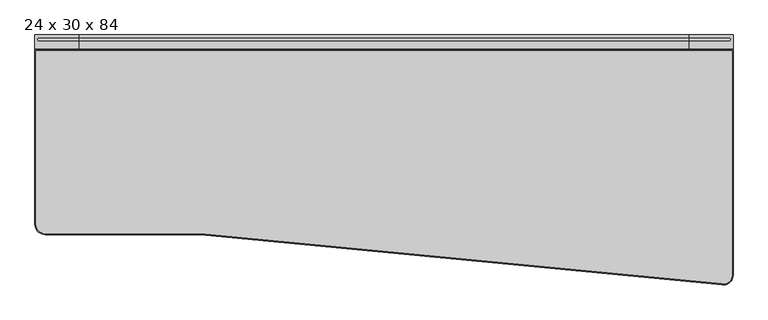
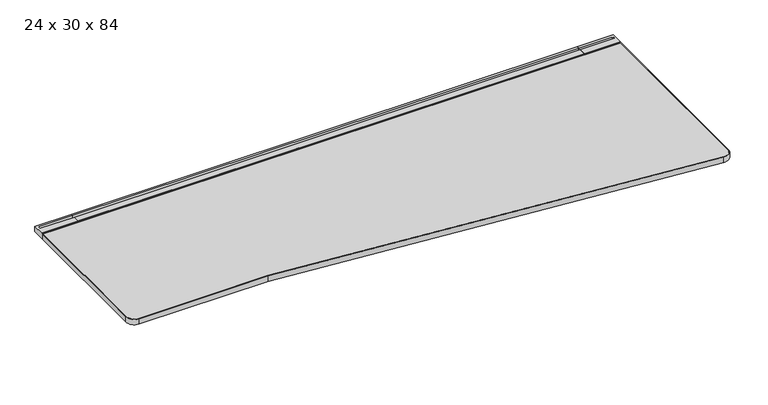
"""IFC4 building model written with IfcOpenShell, lengths in millimetres: furniture geometry, Steelcase - C Scape - Desking - Right Hand Transition : 24 x 30 x 84."""

import ifcopenshell
import ifcopenshell.guid

model = None  # the IFC model being written
_history = None  # IfcOwnerHistory: only IFC2X3 demands one
_inside = {}  # id of a spatial element -> (the spatial element, [elements in it])
_under = {}  # id of a project, library or spatial element -> (it, [spatial elements below it])
_declared = {}  # id of a project -> (the project, [libraries it declares])
_typed = {}  # id of a type object -> (the type object, [elements of that type])
_made_of = {}  # id of a material, layer set ... -> (it, [elements and type objects made of it])


def new_model(schema):
    """Start an empty IFC model of exactly this schema.

    Asked for "IFC4X3", IfcOpenShell would pick the latest addendum, in which some entities
    have other attributes; the version numbers below select the first issue.
    IFC2X3 requires an IfcOwnerHistory on every rooted entity: one is made here for all.
    """
    global model, _history
    if schema == "IFC4X3":
        model = ifcopenshell.file(schema_version=(4, 3, 0, 0))
    else:
        model = ifcopenshell.file(schema=schema)
    _inside.clear()
    _under.clear()
    _declared.clear()
    _typed.clear()
    _made_of.clear()
    _history = None
    if model.schema == "IFC2X3":
        org = make("IfcOrganization", Name="unknown")
        user = make(
            "IfcPersonAndOrganization",
            ThePerson=make("IfcPerson", FamilyName="unknown"),
            TheOrganization=org,
        )
        app = make(
            "IfcApplication",
            ApplicationDeveloper=org,
            Version="unknown",
            ApplicationFullName="unknown",
            ApplicationIdentifier="unknown",
        )
        _history = make(
            "IfcOwnerHistory",
            OwningUser=user,
            OwningApplication=app,
            ChangeAction="ADDED",
            CreationDate=0,
        )
    return model


def make(cls, **values):
    """One entity of the class cls with the attributes given. An attribute that is None is left unset."""
    return model.create_entity(
        cls, **{name: value for name, value in values.items() if value is not None}
    )


def rooted(cls, **values):
    """An entity with a GlobalId (a new one), such as an element, a storey or a relation."""
    return make(cls, GlobalId=ifcopenshell.guid.new(), OwnerHistory=_history, **values)


def si_unit(unit_type, name, prefix=None):
    """IfcSIUnit, for example si_unit("LENGTHUNIT", "METRE", prefix="MILLI")."""
    return make("IfcSIUnit", UnitType=unit_type, Prefix=prefix, Name=name)


def assignment(units):
    """IfcUnitAssignment: the units of a project."""
    return None if units is None else make("IfcUnitAssignment", Units=units)


def point(xyz):
    """IfcCartesianPoint."""
    return None if xyz is None else make("IfcCartesianPoint", Coordinates=xyz)


def direction(xyz):
    """IfcDirection."""
    return None if xyz is None else make("IfcDirection", DirectionRatios=xyz)


def frame(location, z_axis=None, x_axis=None):
    """IfcAxis2Placement3D, a coordinate frame: its origin and axes. An axis left out is left unset."""
    return make(
        "IfcAxis2Placement3D",
        Location=point(location),
        Axis=direction(z_axis),
        RefDirection=direction(x_axis),
    )


def frame_2d(location, x_axis=None):
    """IfcAxis2Placement2D, a coordinate frame in the plane: its origin and x axis."""
    return make(
        "IfcAxis2Placement2D", Location=point(location), RefDirection=direction(x_axis)
    )


def origin():
    """The frame at (0, 0, 0) with its axes left unset."""
    return frame((0.0, 0.0, 0.0))


def place(relative_to, where):
    """IfcLocalPlacement: puts the frame where relative to a parent placement (None: the world)."""
    return make(
        "IfcLocalPlacement", PlacementRelTo=relative_to, RelativePlacement=where
    )


def context(
    kind, dimensions, precision=None, world=None, true_north=None, identifier=None
):
    """IfcGeometricRepresentationContext, for example the 3D "Model" context."""
    return make(
        "IfcGeometricRepresentationContext",
        ContextIdentifier=identifier,
        ContextType=kind,
        CoordinateSpaceDimension=dimensions,
        Precision=precision,
        WorldCoordinateSystem=world,
        TrueNorth=true_north,
    )


def project(units=None, contexts=None):
    """IfcProject with its units and contexts."""
    return rooted(
        "IfcProject",
        Name="project",
        RepresentationContexts=contexts,
        UnitsInContext=assignment(units),
    )


def spatial(cls, under=None, at=None, **own):
    """A site, building, storey or space (cls), placed at a placement, below another one or the project."""
    s = rooted(cls, ObjectPlacement=at, **own)
    if under is not None:
        _under.setdefault(under.id(), (under, []))[1].append(s)
    return s


def polyline(points):
    """IfcPolyline through the points."""
    return make("IfcPolyline", Points=[point(p) for p in points])


def circle_curve(where, radius):
    """IfcCircle in the frame where."""
    return make("IfcCircle", Position=where, Radius=radius)


def trimmed(basis, trim1, trim2, sense, master):
    """IfcTrimmedCurve: the piece of a basis curve between two trims."""
    return make(
        "IfcTrimmedCurve",
        BasisCurve=basis,
        Trim1=trim1,
        Trim2=trim2,
        SenseAgreement=sense,
        MasterRepresentation=master,
    )


def segment(curve, same_sense, transition):
    """IfcCompositeCurveSegment."""
    return make(
        "IfcCompositeCurveSegment",
        Transition=transition,
        SameSense=same_sense,
        ParentCurve=curve,
    )


def composite_curve(segments, self_intersect=None):
    """IfcCompositeCurve: segments joined end to end."""
    return make("IfcCompositeCurve", Segments=segments, SelfIntersect=self_intersect)


def outline(outer, holes=None, kind="AREA"):
    """IfcArbitraryClosedProfileDef: a profile drawn as a closed curve; with holes, ...WithVoids."""
    if holes is None:
        return make("IfcArbitraryClosedProfileDef", ProfileType=kind, OuterCurve=outer)
    return make(
        "IfcArbitraryProfileDefWithVoids",
        ProfileType=kind,
        OuterCurve=outer,
        InnerCurves=holes,
    )


def extrude(swept, where, along, depth):
    """IfcExtrudedAreaSolid: the profile swept, set in the frame where, extruded along a direction by depth."""
    return make(
        "IfcExtrudedAreaSolid",
        SweptArea=swept,
        Position=where,
        ExtrudedDirection=direction(along),
        Depth=depth,
    )


def faces_of(points, faces, orient=None, outer=None):
    """IfcFace entities. A face is a list of loops; a loop is a list of indices into points, from 0.

    orient and outer hold one flag for each loop. By default every Orientation is true, the
    first loop of a face is its IfcFaceOuterBound and the others are IfcFaceBound.
    """
    made = []
    for i, loops in enumerate(faces):
        bounds = []
        for j, loop in enumerate(loops):
            is_outer = j == 0 if outer is None else outer[i][j]
            bounds.append(
                make(
                    "IfcFaceOuterBound" if is_outer else "IfcFaceBound",
                    Bound=make("IfcPolyLoop", Polygon=[points[k] for k in loop]),
                    Orientation=True if orient is None else orient[i][j],
                )
            )
        made.append(make("IfcFace", Bounds=bounds))
    return made


def faceted_brep(points, faces, orient=None, outer=None, voids=None):
    """IfcFacetedBrep: a solid bounded by flat faces; with voids (closed shells), ...WithVoids."""
    shared = [point(p) for p in points]
    hull = make("IfcClosedShell", CfsFaces=faces_of(shared, faces, orient, outer))
    if voids is None:
        return make("IfcFacetedBrep", Outer=hull)
    return make(
        "IfcFacetedBrepWithVoids",
        Outer=hull,
        Voids=[
            make(cls, CfsFaces=faces_of(shared, fs, o, b)) for cls, fs, o, b in voids
        ],
    )


def shape(context_of_items, identifier, shape_type, items):
    """IfcShapeRepresentation: the items that make up one representation, for example the "Body"."""
    return make(
        "IfcShapeRepresentation",
        ContextOfItems=context_of_items,
        RepresentationIdentifier=identifier,
        RepresentationType=shape_type,
        Items=items,
    )


def source(mapping_origin, context_of_items, identifier, shape_type, items):
    """IfcRepresentationMap: a shape defined once, which mapped items show again and again."""
    return make(
        "IfcRepresentationMap",
        MappingOrigin=mapping_origin,
        MappedRepresentation=shape(context_of_items, identifier, shape_type, items),
    )


def transform(
    local_origin,
    x_axis=None,
    y_axis=None,
    z_axis=None,
    scale=None,
    scale2=None,
    scale3=None,
    uniform=True,
):
    """IfcCartesianTransformationOperator3D, or its non-uniform kind. x_axis, y_axis, z_axis: its Axis1, 2, 3."""
    if uniform:
        return make(
            "IfcCartesianTransformationOperator3D",
            Axis1=direction(x_axis),
            Axis2=direction(y_axis),
            LocalOrigin=point(local_origin),
            Scale=scale,
            Axis3=direction(z_axis),
        )
    return make(
        "IfcCartesianTransformationOperator3DnonUniform",
        Axis1=direction(x_axis),
        Axis2=direction(y_axis),
        LocalOrigin=point(local_origin),
        Scale=scale,
        Axis3=direction(z_axis),
        Scale2=scale2,
        Scale3=scale3,
    )


def mapped(mapping_source, mapping_target):
    """IfcMappedItem: shows the shape of a source again, moved by a transform."""
    return make(
        "IfcMappedItem", MappingSource=mapping_source, MappingTarget=mapping_target
    )


def made_of(thing, what):
    """Note that an element or type object is made of a material, layer set ...; save() writes the relation."""
    if what is not None:
        _made_of.setdefault(what.id(), (what, []))[1].append(thing)
    return thing


def element(
    cls,
    number,
    at=None,
    inside=None,
    cuts=None,
    type_object=None,
    material=None,
    context=None,
    identifier="Body",
    shape_type=None,
    held_by="IfcProductDefinitionShape",
    body=None,
    shapes=None,
    **own,
):
    """One element of the class cls, such as IfcWall. Its Tag is "e" and its number.

    at: its placement. inside: the storey or other place that contains it. cuts: it is an
    opening in that element (IfcRelVoidsElement). A single representation is given by context,
    identifier, shape_type and body (its items); several are given by shapes. held_by: the class
    of the entity that holds the representations. save() writes the other relations.
    """
    e = rooted(cls, Tag="e%d" % number, ObjectPlacement=at, **own)
    if body is not None:
        shapes = [shape(context, identifier, shape_type, body)]
    if shapes is not None:
        e.Representation = make(held_by, Representations=shapes)
    if inside is not None:
        _inside.setdefault(inside.id(), (inside, []))[1].append(e)
    if cuts is not None:
        rooted(
            "IfcRelVoidsElement", RelatingBuildingElement=cuts, RelatedOpeningElement=e
        )
    if type_object is not None:
        _typed.setdefault(type_object.id(), (type_object, []))[1].append(e)
    return made_of(e, material)


def aggregate(whole, parts):
    """IfcRelAggregates: a whole, such as a stair, and the parts it consists of."""
    return rooted("IfcRelAggregates", RelatingObject=whole, RelatedObjects=parts)


def save(model, path):
    """Write the relations noted so far, then the file.

    IfcRelAggregates (storeys below a building ...), IfcRelContainedInSpatialStructure (elements
    in a storey), IfcRelDefinesByType, IfcRelAssociatesMaterial and IfcRelDeclares: one each for
    every whole, place, type object, material and project.
    """
    for whole, parts in _under.values():
        aggregate(whole, parts)
    for where, things in _inside.values():
        rooted(
            "IfcRelContainedInSpatialStructure",
            RelatedElements=things,
            RelatingStructure=where,
        )
    for kind, things in _typed.values():
        rooted("IfcRelDefinesByType", RelatedObjects=things, RelatingType=kind)
    for what, things in _made_of.values():
        rooted("IfcRelAssociatesMaterial", RelatedObjects=things, RelatingMaterial=what)
    for by, libraries in _declared.values():
        rooted("IfcRelDeclares", RelatingContext=by, RelatedDefinitions=libraries)
    model.write(path)


def plane_surface(at):
    """IfcPlane: the flat surface through the origin of the frame at, square to its z axis."""
    return make("IfcPlane", Position=at)


def cylinder_surface(at, radius):
    """IfcCylindricalSurface: all points at the distance radius from the z axis of the frame at."""
    return make("IfcCylindricalSurface", Position=at, Radius=radius)


def revolved_surface(curve, axis_point, axis_direction):
    """IfcSurfaceOfRevolution: the curve turned about the line through axis_point along axis_direction."""
    return make(
        "IfcSurfaceOfRevolution",
        SweptCurve=make("IfcArbitraryOpenProfileDef", ProfileType="CURVE", Curve=curve),
        AxisPosition=make("IfcAxis1Placement", Location=point(axis_point), Axis=direction(axis_direction)),
    )


def advanced_brep(points, edges, surfaces, faces):
    """IfcAdvancedBrep: a solid bounded by faces that lie on surfaces and meet in shared edges.

    An edge is (start, end): straight between two places in points (the first is 0);
    or (start, end, curve); or (start, end, curve, False) where it runs against its curve.
    A face is (place in surfaces, loops), or (place, loops, False) where it looks against
    its surface's normal. A loop lists edges by number (the first is 1), with a minus sign
    where the edge is run from its end to its start. The first loop is the outer one.
    """
    corners = [point(p) for p in points]
    vertices = [make("IfcVertexPoint", VertexGeometry=c) for c in corners]
    made = []
    for start, end, *more in edges:
        made.append(
            make(
                "IfcEdgeCurve",
                EdgeStart=vertices[start],
                EdgeEnd=vertices[end],
                EdgeGeometry=more[0] if more else make("IfcPolyline", Points=[corners[start], corners[end]]),
                SameSense=more[1] if len(more) > 1 else True,
            )
        )
    hull = []
    for where, loops, *sense in faces:
        bounds = []
        for j, loop in enumerate(loops):
            ring = [make("IfcOrientedEdge", EdgeElement=made[abs(k) - 1], Orientation=k > 0) for k in loop]
            bounds.append(
                make(
                    "IfcFaceOuterBound" if j == 0 else "IfcFaceBound",
                    Bound=make("IfcEdgeLoop", EdgeList=ring),
                    Orientation=True,
                )
            )
        hull.append(make("IfcAdvancedFace", Bounds=bounds, FaceSurface=surfaces[where], SameSense=sense[0] if sense else True))
    return make("IfcAdvancedBrep", Outer=make("IfcClosedShell", CfsFaces=hull))


def furniture_24_x_30_x_84_331a1a21(model_context):
    return source(origin(), model_context, "Body", "SolidModel", [
        advanced_brep(
        [(1998.9927124, -45.3135132, 703.3768), (1998.9927124, -45.3135132, 722.4268341), (1998.9927124, -42.7750923, 722.4268341), (1998.9927124, -42.7750923, 725.932), (1998.9927124, -19.3290527, 725.932), (1998.9927124, -19.3290527, 713.486), (1998.9927124, -8.5111084, 713.486), (1998.9927124, -8.5111084, 725.932), (1998.9927124, 0.0, 725.932), (1998.9927124, 0.0, 705.1038636), (1998.9927124, -3.2278472, 705.1038636), (1998.9927124, -4.0331902, 703.3768), (2132.0125, -45.3135132, 703.3768), (2132.0125, -4.0331902, 703.3768), (2132.0125, -3.2278472, 705.1038636), (2132.0125, 0.0, 705.1038636), (2132.0125, 0.0, 725.932), (2132.0125, -42.7750923, 725.932), (2132.0125, -42.7750923, 722.4268341), (2132.0125, -45.3135132, 722.4268341), (2120.2504272, -8.5111084, 725.932), (2120.2504272, -19.3290527, 725.932), (2120.2504272, -19.3290527, 713.486), (2120.2504272, -8.5111084, 713.486)],
        [
            (0, 1),
            (1, 2),
            (2, 3),
            (3, 4),
            (4, 5),
            (5, 6),
            (6, 7),
            (7, 8),
            (8, 9),
            (9, 10),
            (10, 11),
            (11, 0),
            (12, 13),
            (13, 14),
            (14, 15),
            (15, 16),
            (16, 17),
            (17, 18),
            (18, 19),
            (19, 12),
            (11, 13),
            (12, 0),
            (10, 14),
            (9, 15),
            (8, 16),
            (7, 20),
            (20, 21, circle_curve(frame((2120.2504272, -13.9200806, 725.932), z_axis=(0.0, 0.0, -1.0), x_axis=(-1.0, 0.0, 0.0)), 5.4089722)),
            (21, 4),
            (3, 17),
            (2, 18),
            (1, 19),
            (5, 22),
            (22, 23, circle_curve(frame((2120.2504272, -13.9200806, 713.486), z_axis=(0.0, 0.0, 1.0), x_axis=(-1.0, 0.0, 0.0)), 5.4089722)),
            (23, 6),
            (23, 20),
            (22, 21),
        ],
        [
            plane_surface(frame((1998.9927124, -45.3135132, 703.3768), z_axis=(-1.0, 0.0, 0.0), x_axis=(0.0, 1.0, 0.0))),
            plane_surface(frame((2132.0125, -45.3135132, 703.3768), z_axis=(1.0, 0.0, 0.0), x_axis=(0.0, -1.0, 0.0))),
            plane_surface(frame((1998.9927124, -45.3135132, 703.3768), z_axis=(0.0, 0.0, -1.0), x_axis=(1.0, 0.0, 0.0))),
            plane_surface(frame((1998.9927124, -4.0331902, 703.3768), z_axis=(0.0, 0.9063077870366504, -0.4226182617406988), x_axis=(1.0, 0.0, 0.0))),
            plane_surface(frame((1998.9927124, -3.2278472, 705.1038636), z_axis=(0.0, 0.0, -1.0), x_axis=(1.0, 0.0, 0.0))),
            plane_surface(frame((1998.9927124, 0.0, 705.1038636), z_axis=(0.0, 1.0, 0.0), x_axis=(1.0, 0.0, 0.0))),
            plane_surface(frame((1998.9927124, 0.0, 725.932), z_axis=(0.0, 0.0, 1.0), x_axis=(1.0, 0.0, 0.0))),
            plane_surface(frame((1998.9927124, -42.7750923, 725.932), z_axis=(0.0, -1.0, 0.0), x_axis=(1.0, 0.0, 0.0))),
            plane_surface(frame((1998.9927124, -42.7750923, 722.4268341), z_axis=(0.0, 0.0, 1.0), x_axis=(1.0, 0.0, 0.0))),
            plane_surface(frame((1998.9927124, -45.3135132, 722.4268341), z_axis=(0.0, -1.0, 0.0), x_axis=(1.0, 0.0, 0.0))),
            plane_surface(frame((2120.2504272, -8.5111084, 713.486), z_axis=(0.0, 0.0, 1.0), x_axis=(-1.0, 0.0, 0.0))),
            plane_surface(frame((1998.9927124, -8.5111084, 731.2180541), z_axis=(0.0, -1.0, 0.0), x_axis=(0.0, 0.0, -1.0))),
            revolved_surface(polyline([(2114.841455, -13.9200806, 725.932), (2114.841455, -13.9200806, 713.486)]), (2120.2504272, -13.9200806, 713.486), (0.0, 0.0, 1.0)),
            plane_surface(frame((2120.2504272, -19.3290527, 731.2180541), z_axis=(0.0, 1.0, 0.0), x_axis=(0.0, 0.0, -1.0))),
        ],
        [
            (0, [[1, 2, 3, 4, 5, 6, 7, 8, 9, 10, 11, 12]]),
            (1, [[13, 14, 15, 16, 17, 18, 19, 20]]),
            (2, [[21, -13, 22, -12]]),
            (3, [[23, -14, -21, -11]]),
            (4, [[24, -15, -23, -10]]),
            (5, [[25, -16, -24, -9]]),
            (6, [[-25, -8, 26, 27, 28, -4, 29, -17]]),
            (7, [[30, -18, -29, -3]]),
            (8, [[31, -19, -30, -2]]),
            (9, [[-22, -20, -31, -1]]),
            (10, [[-6, 32, 33, 34]]),
            (11, [[35, -26, -7, -34]]),
            (12, [[36, -27, -35, -33]]),
            (13, [[-5, -28, -36, -32]]),
        ],
    ),
        faceted_brep([(2112.9617368, -565.0752923, 700.7093833), (2112.9617368, -565.0752923, 703.3768), (1998.9927124, -565.0752923, 703.3768), (1998.9927124, -565.0752923, 679.3263935), (2014.6268699, -565.0752923, 679.3263935), (2017.2474121, -565.0752923, 693.4200291), (2098.6866272, -565.0752923, 693.4200291), (2112.9617368, -4.0331902, 700.7093833), (2098.6866272, -4.0331902, 693.4200291), (2017.2474121, -4.0331902, 693.4200291), (2005.3411653, -4.0331902, 629.3866), (1998.9927124, -4.0331902, 629.3866), (1998.9927124, -4.0331902, 703.3768), (2112.9617368, -4.0331902, 703.3768), (2012.4615949, -376.5599397, 667.6812472), (2005.3411653, -364.1172546, 629.3866), (1998.9927124, -364.1172546, 629.3866), (1998.9927124, -376.5599397, 667.6812472)], [[[0, 1, 2, 3, 4, 5, 6]], [[7, 8, 9, 10, 11, 12, 13]], [[6, 8, 7, 0]], [[5, 9, 8, 6]], [[9, 5, 4, 14, 15, 10]], [[10, 15, 16, 11]], [[11, 16, 17, 3, 2, 12]], [[1, 13, 12, 2]], [[0, 7, 13, 1]], [[14, 4, 3, 17]], [[17, 16, 15, 14]]]),
        extrude(outline(composite_curve([segment(polyline([(-293.5216187, 657.3775839), (-559.0022133, 680.1371551)]), True, "CONTINUOUS"), segment(trimmed(circle_curve(frame_2d((-558.7581271, 682.9843154)), 2.8576039), [point((-559.0022133, 680.1371551))], [point((-561.5383043, 682.3236226))], False, "CARTESIAN"), True, "CONTINUOUS"), segment(polyline([(-561.5383043, 682.3236226), (-566.0887542, 701.4717905), (-557.8334441, 701.4717905), (-557.8334441, 703.3768), (-442.6683806, 703.3768), (-442.6683806, 696.3917953), (-318.2108611, 696.3917953), (-318.2108611, 703.3768), (-293.5216187, 703.3768), (-293.5216187, 657.3775839)]), True, "CONTINUOUS")], self_intersect=False)), frame((1030.224, 0.0, 0.0), z_axis=(1.0, 0.0, 0.0), x_axis=(0.0, 1.0, 0.0)), (0.0, 0.0, 1.0), 73.152),
        advanced_brep(
        [(134.6072876, -45.3135132, 703.3768), (134.6072876, -4.0331902, 703.3768), (134.6072876, -3.2278472, 705.1038636), (134.6072876, 0.0, 705.1038636), (134.6072876, 0.0, 725.932), (134.6072876, -8.5111084, 725.932), (134.6072876, -8.5111084, 713.486), (134.6072876, -19.3290527, 713.486), (134.6072876, -19.3290527, 725.932), (134.6072876, -42.7750923, 725.932), (134.6072876, -42.7750923, 722.4268341), (134.6072876, -45.3135132, 722.4268341), (1.5875, -45.3135132, 703.3768), (1.5875, -45.3135132, 722.4268341), (1.5875, -42.7750923, 722.4268341), (1.5875, -42.7750923, 725.932), (1.5875, 0.0, 725.932), (1.5875, 0.0, 705.1038636), (1.5875, -3.2278472, 705.1038636), (1.5875, -4.0331902, 703.3768), (13.3495728, -19.3290527, 725.932), (13.3495728, -8.5111084, 725.932), (13.3495728, -8.5111084, 713.486), (13.3495728, -19.3290527, 713.486)],
        [
            (0, 1),
            (1, 2),
            (2, 3),
            (3, 4),
            (4, 5),
            (5, 6),
            (6, 7),
            (7, 8),
            (8, 9),
            (9, 10),
            (10, 11),
            (11, 0),
            (12, 13),
            (13, 14),
            (14, 15),
            (15, 16),
            (16, 17),
            (17, 18),
            (18, 19),
            (19, 12),
            (0, 12),
            (19, 1),
            (18, 2),
            (17, 3),
            (16, 4),
            (15, 9),
            (8, 20),
            (20, 21, circle_curve(frame((13.3495728, -13.9200806, 725.932), z_axis=(0.0, 0.0, -1.0), x_axis=(1.0, 0.0, 0.0)), 5.4089722)),
            (21, 5),
            (14, 10),
            (13, 11),
            (6, 22),
            (22, 23, circle_curve(frame((13.3495728, -13.9200806, 713.486), z_axis=(0.0, 0.0, 1.0), x_axis=(1.0, 0.0, 0.0)), 5.4089722)),
            (23, 7),
            (21, 22),
            (20, 23),
        ],
        [
            plane_surface(frame((134.6072876, -45.3135132, 703.3768), z_axis=(1.0, 0.0, 0.0), x_axis=(0.0, 1.0, 0.0))),
            plane_surface(frame((1.5875, -45.3135132, 703.3768), z_axis=(-1.0, 0.0, 0.0), x_axis=(0.0, -1.0, 0.0))),
            plane_surface(frame((134.6072876, -45.3135132, 703.3768), z_axis=(0.0, 0.0, -1.0), x_axis=(-1.0, 0.0, 0.0))),
            plane_surface(frame((134.6072876, -4.0331902, 703.3768), z_axis=(0.0, 0.9063077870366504, -0.4226182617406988), x_axis=(-1.0, 0.0, 0.0))),
            plane_surface(frame((134.6072876, -3.2278472, 705.1038636), z_axis=(0.0, 0.0, -1.0), x_axis=(-1.0, 0.0, 0.0))),
            plane_surface(frame((134.6072876, 0.0, 705.1038636), z_axis=(0.0, 1.0, 0.0), x_axis=(-1.0, 0.0, 0.0))),
            plane_surface(frame((134.6072876, 0.0, 725.932), z_axis=(0.0, 0.0, 1.0), x_axis=(-1.0, 0.0, 0.0))),
            plane_surface(frame((134.6072876, -42.7750923, 725.932), z_axis=(0.0, -1.0, 0.0), x_axis=(-1.0, 0.0, 0.0))),
            plane_surface(frame((134.6072876, -42.7750923, 722.4268341), z_axis=(0.0, 0.0, 1.0), x_axis=(-1.0, 0.0, 0.0))),
            plane_surface(frame((134.6072876, -45.3135132, 722.4268341), z_axis=(0.0, -1.0, 0.0), x_axis=(-1.0, 0.0, 0.0))),
            plane_surface(frame((13.3495728, -8.5111084, 713.486), z_axis=(0.0, 0.0, 1.0), x_axis=(1.0, 0.0, 0.0))),
            plane_surface(frame((134.6072876, -8.5111084, 731.2180541), z_axis=(0.0, -1.0, 0.0), x_axis=(0.0, 0.0, -1.0))),
            revolved_surface(polyline([(18.758545, -13.9200806, 725.932), (18.758545, -13.9200806, 713.486)]), (13.3495728, -13.9200806, 713.486), (0.0, 0.0, 1.0)),
            plane_surface(frame((13.3495728, -19.3290527, 731.2180541), z_axis=(0.0, 1.0, 0.0), x_axis=(0.0, 0.0, -1.0))),
        ],
        [
            (0, [[1, 2, 3, 4, 5, 6, 7, 8, 9, 10, 11, 12]]),
            (1, [[13, 14, 15, 16, 17, 18, 19, 20]]),
            (2, [[-1, 21, -20, 22]]),
            (3, [[-2, -22, -19, 23]]),
            (4, [[-3, -23, -18, 24]]),
            (5, [[-4, -24, -17, 25]]),
            (6, [[-16, 26, -9, 27, 28, 29, -5, -25]]),
            (7, [[-10, -26, -15, 30]]),
            (8, [[-11, -30, -14, 31]]),
            (9, [[-12, -31, -13, -21]]),
            (10, [[32, 33, 34, -7]]),
            (11, [[-32, -6, -29, 35]]),
            (12, [[-33, -35, -28, 36]]),
            (13, [[-34, -36, -27, -8]]),
        ],
    ),
        faceted_brep([(20.6382632, -565.0752923, 700.7093833), (34.9133728, -565.0752923, 693.4200291), (116.3525879, -565.0752923, 693.4200291), (118.9731301, -565.0752923, 679.3263935), (134.6072876, -565.0752923, 679.3263935), (134.6072876, -565.0752923, 703.3768), (20.6382632, -565.0752923, 703.3768), (20.6382632, -4.0331902, 700.7093833), (20.6382632, -4.0331902, 703.3768), (134.6072876, -4.0331902, 703.3768), (134.6072876, -4.0331902, 629.3866), (128.2588347, -4.0331902, 629.3866), (116.3525879, -4.0331902, 693.4200291), (34.9133728, -4.0331902, 693.4200291), (128.2588347, -364.1172546, 629.3866), (121.1384051, -376.5599397, 667.6812472), (134.6072876, -364.1172546, 629.3866), (134.6072876, -376.5599397, 667.6812472)], [[[0, 1, 2, 3, 4, 5, 6]], [[7, 8, 9, 10, 11, 12, 13]], [[1, 0, 7, 13]], [[2, 1, 13, 12]], [[12, 11, 14, 15, 3, 2]], [[11, 10, 16, 14]], [[10, 9, 5, 4, 17, 16]], [[6, 5, 9, 8]], [[0, 6, 8, 7]], [[15, 17, 4, 3]], [[17, 15, 14, 16]]]),
        extrude(outline(polyline([(-8.5111084, 725.932), (0.0, 725.932), (0.0, 705.1038636), (-3.2278472, 705.1038636), (-4.0331902, 703.3768), (-45.3135132, 703.3768), (-45.3135132, 722.4268341), (-42.7750923, 722.4268341), (-42.7750923, 725.932), (-19.3290527, 725.932), (-19.3290527, 713.486), (-8.5111084, 713.486), (-8.5111084, 725.932)])), frame((134.6072876, 0.0, 0.0), z_axis=(1.0, 0.0, 0.0), x_axis=(0.0, 1.0, 0.0)), (0.0, 0.0, 1.0), 1864.3854248),
        extrude(outline(polyline([(134.6072876, -293.5216187), (134.6072876, -4.0331902), (1998.9927124, -4.0331902), (1998.9927124, -293.5216187), (134.6072876, -293.5216187)])), frame((0.0, 0.0, 629.3866), z_axis=(0.0, 0.0, 1.0), x_axis=(1.0, 0.0, 0.0)), (0.0, 0.0, 1.0), 73.9902),
        advanced_brep(
        [(4.6355, -48.3660689, 723.9), (4.6355, -577.85, 723.9), (33.3375, -606.5490234, 723.9), (508.0002405, -606.5490234, 723.9), (2099.6488255, -759.7737122, 723.9), (2128.9645, -734.677348, 723.9), (2128.9645, -48.3660689, 723.9), (4.6355, -48.3660689, 703.3768), (2128.9645, -48.3660689, 703.3768), (2128.9645, -734.677348, 703.3768), (2099.6488255, -759.7737122, 703.3768), (508.0002405, -606.5490234, 703.3768), (33.3375, -606.5490234, 703.3768), (4.6384766, -577.85, 703.3768)],
        [
            (0, 1),
            (1, 2, circle_curve(frame((33.3375, -577.85, 723.9), z_axis=(0.0, 0.0, 1.0), x_axis=(1.0, 0.0, 0.0)), 28.6990234)),
            (2, 3),
            (3, 4),
            (4, 5, circle_curve(frame((2103.5645, -734.677348, 723.9), z_axis=(0.0, 0.0, 1.0), x_axis=(1.0, 0.0, 0.0)), 25.4)),
            (5, 6),
            (6, 0),
            (7, 8),
            (8, 9),
            (9, 10, circle_curve(frame((2103.5645, -734.677348, 703.3768), z_axis=(0.0, 0.0, -1.0), x_axis=(1.0, 0.0, 0.0)), 25.4)),
            (10, 11),
            (11, 12),
            (12, 13, circle_curve(frame((33.3375, -577.85, 703.3768), z_axis=(0.0, 0.0, -1.0), x_axis=(1.0, 0.0, 0.0)), 28.6990234)),
            (13, 7),
            (0, 7),
            (13, 1),
            (12, 2),
            (11, 3),
            (10, 4),
            (9, 5),
            (8, 6),
        ],
        [
            plane_surface(frame((4.6355, -48.3660689, 723.9), z_axis=(0.0, 0.0, 1.0), x_axis=(0.0, -1.0, 0.0))),
            plane_surface(frame((4.6355, -48.3660689, 703.3768), z_axis=(0.0, 0.0, -1.0), x_axis=(0.0, 1.0, 0.0))),
            plane_surface(frame((4.6355, -48.3660689, 723.9), z_axis=(-1.0, 0.0, 0.0), x_axis=(0.0, 0.0, -1.0))),
            cylinder_surface(frame((33.3375, -577.85, 703.3768), z_axis=(0.0, 0.0, 1.0), x_axis=(1.0, 0.0, 0.0)), 28.6990234),
            plane_surface(frame((33.3375, -606.5490234, 723.9), z_axis=(0.0, -1.0, 0.0), x_axis=(0.0, 0.0, -1.0))),
            plane_surface(frame((508.0002405, -606.5490234, 723.9), z_axis=(-0.09582490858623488, -0.9953982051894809, 0.0), x_axis=(0.0, 0.0, -1.0))),
            cylinder_surface(frame((2103.5645, -734.677348, 703.3768), z_axis=(0.0, 0.0, 1.0), x_axis=(1.0, 0.0, 0.0)), 25.4),
            plane_surface(frame((2128.9645, -734.677348, 723.9), z_axis=(1.0, 0.0, 0.0), x_axis=(0.0, 0.0, -1.0))),
            plane_surface(frame((2128.9645, -48.3660689, 723.9), z_axis=(0.0, 1.0, 0.0), x_axis=(0.0, 0.0, -1.0))),
        ],
        [
            (0, [[1, 2, 3, 4, 5, 6, 7]]),
            (1, [[8, 9, 10, 11, 12, 13, 14]]),
            (2, [[-1, 15, -14, 16]]),
            (3, [[-2, -16, -13, 17]]),
            (4, [[-3, -17, -12, 18]]),
            (5, [[-4, -18, -11, 19]]),
            (6, [[-5, -19, -10, 20]]),
            (7, [[-6, -20, -9, 21]]),
            (8, [[-7, -21, -8, -15]]),
        ],
    ),
        extrude(outline(composite_curve([segment(polyline([(2132.0125, -45.3150923), (2132.0125, -733.2875177)]), True, "CONTINUOUS"), segment(trimmed(circle_curve(frame_2d((2102.4036927, -733.2875177)), 29.6088073), [point((2132.0125, -733.2875177))], [point((2097.8391868, -762.5423763))], False, "CARTESIAN"), True, "CONTINUOUS"), segment(polyline([(2097.8391868, -762.5423763), (508.0, -609.6), (33.3375, -609.6)]), True, "CONTINUOUS"), segment(trimmed(circle_curve(frame_2d((33.3375, -577.85)), 31.75), [point((33.3375, -609.6))], [point((1.5875, -577.85))], False, "CARTESIAN"), True, "CONTINUOUS"), segment(polyline([(1.5875, -577.85), (1.5875, -45.3150923), (2132.0125, -45.3150923)]), True, "CONTINUOUS")], self_intersect=False), holes=[composite_curve([segment(polyline([(508.1464139, -606.5490234), (2098.2231974, -759.5142566)]), True, "CONTINUOUS"), segment(trimmed(circle_curve(frame_2d((2102.4036927, -733.2875177)), 26.5578307), [point((2098.2231974, -759.5142566))], [point((2128.9615234, -733.2875177))], True, "CARTESIAN"), True, "CONTINUOUS"), segment(polyline([(2128.9615234, -733.2875177), (2128.9615234, -48.3660689), (4.6384766, -48.3660689), (4.6384766, -577.85)]), True, "CONTINUOUS"), segment(trimmed(circle_curve(frame_2d((33.3375, -577.85)), 28.6990234), [point((4.6384766, -577.85))], [point((33.3375, -606.5490234))], True, "CARTESIAN"), True, "CONTINUOUS"), segment(polyline([(33.3375, -606.5490234), (508.1464139, -606.5490234)]), True, "CONTINUOUS")], self_intersect=False)]), frame((0.0, 0.0, 703.3768), z_axis=(0.0, 0.0, 1.0), x_axis=(1.0, 0.0, 0.0)), (0.0, 0.0, 1.0), 20.5232),
    ])


if __name__ == "__main__":
    model = new_model("IFC4")
    model_context = context("Model", 3, world=origin())
    ifc_project = project(units=[si_unit("LENGTHUNIT", "METRE", prefix="MILLI")], contexts=[model_context])
    site = spatial("IfcSite", under=ifc_project)
    building = spatial("IfcBuilding", under=site)
    placement = place(None, origin())
    furniture_24_x_30_x_84_shape = furniture_24_x_30_x_84_331a1a21(model_context)
    element("IfcFurniture", 1, ObjectType="Steelcase - C Scape - Desking - Right Hand Transition : 24 x 30 x 84", at=placement, inside=building, context=model_context, shape_type="MappedRepresentation", body=[
        mapped(furniture_24_x_30_x_84_shape, transform((0.0, 0.0, 0.0), x_axis=(1.0, 0.0, 0.0), y_axis=(0.0, 1.0, 0.0), z_axis=(0.0, 0.0, 1.0))),
    ])
    save(model, "model.ifc")
